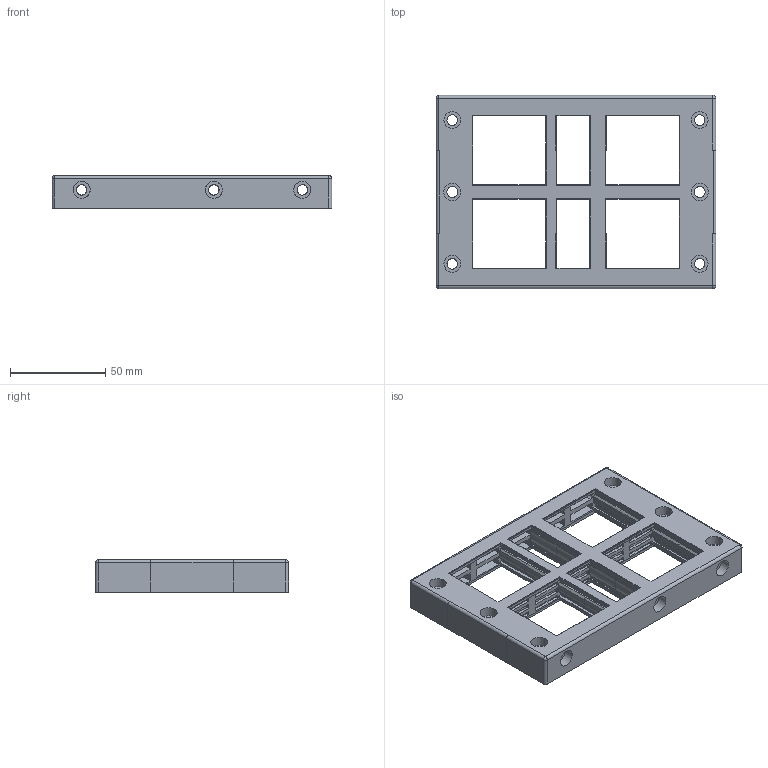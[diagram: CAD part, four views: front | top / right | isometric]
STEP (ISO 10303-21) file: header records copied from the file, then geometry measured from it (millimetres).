
FILE_DESCRIPTION (( 'STEP AP203' ), '1' );
FILE_NAME ('042221 KBL 24-8-MT.STEP', '2023-04-13T02:01:01', ( '' ), ( '' ), 'SwSTEP 2.0', 'SolidWorks 2016', '' );
FILE_SCHEMA (( 'CONFIG_CONTROL_DESIGN' ));
Length unit declared in the file: millimetre
Products named in the file (1): 042221 KBL 24-8-MT
Bounding box: 147.05 x 101.5 x 17 mm (x, y, z)
Volume: 88655.6 mm3; surface area: 62406.6 mm2
Topology: 1 solids, 7 shells, 1197 faces, 3323 edges, 2185 vertices
Faces by surface type: plane 888, cylinder 256, cone 27, bspline 26
Full cylindrical faces by diameter (mm): 1.8 x2, 2 x2, 5.5 x6, 5.55 x4, 5.8 x2, 8.8 x4, 9 x5
Entity records: 43021 total; most frequent: CARTESIAN_POINT 13694, ORIENTED_EDGE 6576, DIRECTION 5112, EDGE_CURVE 3288, LINE 2484, VECTOR 2484, VERTEX_POINT 2181, EDGE_LOOP 1333
